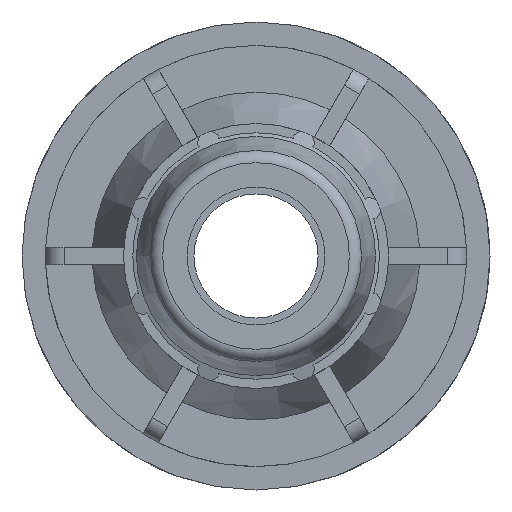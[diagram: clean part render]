
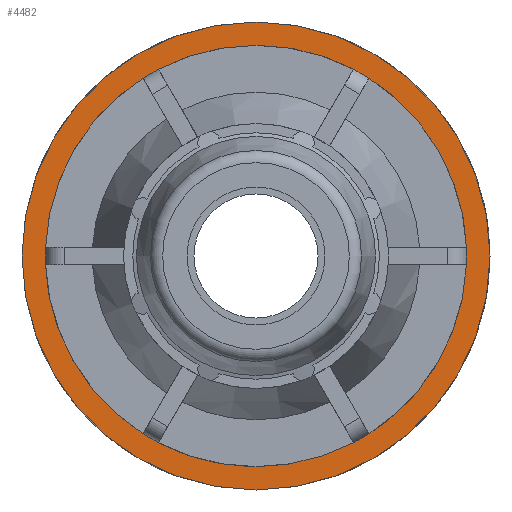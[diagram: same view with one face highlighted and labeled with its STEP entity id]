
A CAD part, left-side view. The second image highlights one B-rep face of the part: STEP entity #4482.
In plain terms, the highlighted planar face has unit normal (-1, 0, 0).
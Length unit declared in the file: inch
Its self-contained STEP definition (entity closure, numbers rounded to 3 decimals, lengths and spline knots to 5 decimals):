
#48=FACE_BOUND('',#607,.T.);
#382=FACE_OUTER_BOUND('',#606,.T.);
#606=EDGE_LOOP('',(#3669,#3670));
#607=EDGE_LOOP('',(#3671,#3672));
#682=CIRCLE('',#4612,2.225);
#683=CIRCLE('',#4613,2.225);
#826=CIRCLE('',#4905,1.78);
#827=CIRCLE('',#4906,1.78);
#1670=VERTEX_POINT('',#6470);
#1671=VERTEX_POINT('',#6472);
#1958=VERTEX_POINT('',#7699);
#1959=VERTEX_POINT('',#7700);
#2134=EDGE_CURVE('',#1670,#1671,#682,.T.);
#2135=EDGE_CURVE('',#1671,#1670,#683,.T.);
#2579=EDGE_CURVE('',#1958,#1959,#826,.T.);
#2580=EDGE_CURVE('',#1959,#1958,#827,.T.);
#3669=ORIENTED_EDGE('',*,*,#2135,.F.);
#3670=ORIENTED_EDGE('',*,*,#2134,.F.);
#3671=ORIENTED_EDGE('',*,*,#2579,.T.);
#3672=ORIENTED_EDGE('',*,*,#2580,.T.);
#4059=PLANE('',#4904);
#4482=ADVANCED_FACE('',(#382,#48),#4059,.T.);
#4612=AXIS2_PLACEMENT_3D('',#6473,#5210,#5211);
#4613=AXIS2_PLACEMENT_3D('',#6474,#5212,#5213);
#4904=AXIS2_PLACEMENT_3D('',#7698,#6012,#6013);
#4905=AXIS2_PLACEMENT_3D('',#7701,#6014,#6015);
#4906=AXIS2_PLACEMENT_3D('',#7702,#6016,#6017);
#5210=DIRECTION('center_axis',(1.,0.,0.));
#5211=DIRECTION('ref_axis',(0.,0.,-1.));
#5212=DIRECTION('center_axis',(1.,0.,0.));
#5213=DIRECTION('ref_axis',(0.,0.,-1.));
#6012=DIRECTION('center_axis',(-1.,0.,0.));
#6013=DIRECTION('ref_axis',(0.,0.,1.));
#6014=DIRECTION('center_axis',(1.,0.,0.));
#6015=DIRECTION('ref_axis',(0.,0.,-1.));
#6016=DIRECTION('center_axis',(1.,0.,0.));
#6017=DIRECTION('ref_axis',(0.,0.,-1.));
#6470=CARTESIAN_POINT('',(1.39678,-2.225,0.));
#6472=CARTESIAN_POINT('',(1.39678,0.,2.225));
#6473=CARTESIAN_POINT('Origin',(1.39678,0.,0.));
#6474=CARTESIAN_POINT('Origin',(1.39678,0.,0.));
#7698=CARTESIAN_POINT('Origin',(1.39678,2.225,0.));
#7699=CARTESIAN_POINT('',(1.39678,1.78,0.));
#7700=CARTESIAN_POINT('',(1.39678,-1.78,0.));
#7701=CARTESIAN_POINT('Origin',(1.39678,0.,0.));
#7702=CARTESIAN_POINT('Origin',(1.39678,0.,0.));
